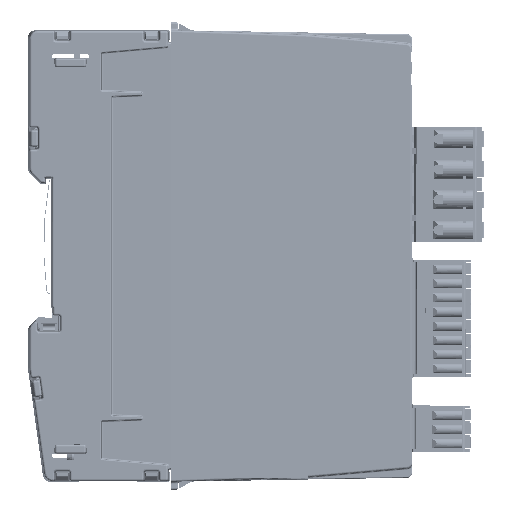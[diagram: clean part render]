
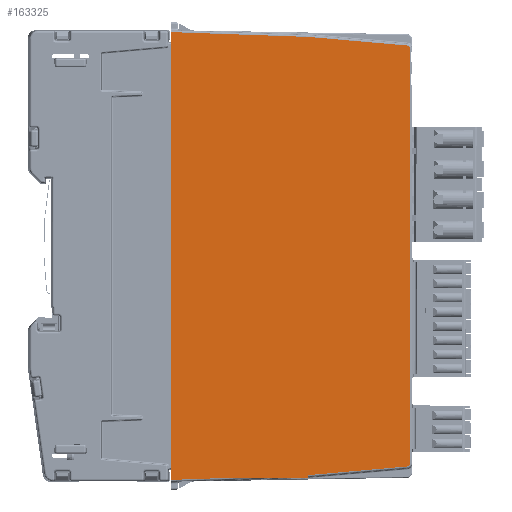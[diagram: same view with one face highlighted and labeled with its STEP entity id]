
A CAD part, left-side view. The second image highlights one B-rep face of the part: STEP entity #163325.
In plain terms, the highlighted planar face has unit normal (-1, -0.018, 0).
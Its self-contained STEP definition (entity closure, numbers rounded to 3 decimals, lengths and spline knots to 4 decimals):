
#15569=FACE_OUTER_BOUND('',#24622,.T.);
#24622=EDGE_LOOP('',(#137706,#137707,#137708,#137709,#137710,#137711,#137712,
#137713,#137714,#137715,#137716,#137717,#137718));
#40621=LINE('',#278768,#57121);
#40634=LINE('',#278840,#57134);
#40691=LINE('',#279068,#57191);
#41014=LINE('',#280099,#57514);
#41015=LINE('',#280101,#57515);
#41016=LINE('',#280105,#57516);
#41017=LINE('',#280109,#57517);
#41018=LINE('',#280111,#57518);
#41019=LINE('',#280113,#57519);
#41020=LINE('',#280115,#57520);
#41021=LINE('',#280116,#57521);
#57121=VECTOR('',#215088,0.3937);
#57134=VECTOR('',#215129,0.3937);
#57191=VECTOR('',#215324,39.3701);
#57514=VECTOR('',#216065,39.3701);
#57515=VECTOR('',#216066,39.3701);
#57516=VECTOR('',#216069,39.3701);
#57517=VECTOR('',#216072,39.3701);
#57518=VECTOR('',#216073,39.3701);
#57519=VECTOR('',#216074,39.3701);
#57520=VECTOR('',#216075,39.3701);
#57521=VECTOR('',#216076,39.3701);
#59869=ELLIPSE('',#175886,0.0315,0.0315);
#59870=ELLIPSE('',#175887,0.0315,0.0315);
#73015=VERTEX_POINT('',#278764);
#73017=VERTEX_POINT('',#278767);
#73039=VERTEX_POINT('',#278835);
#73097=VERTEX_POINT('',#279067);
#73400=VERTEX_POINT('',#280098);
#73401=VERTEX_POINT('',#280100);
#73402=VERTEX_POINT('',#280102);
#73403=VERTEX_POINT('',#280104);
#73404=VERTEX_POINT('',#280106);
#73405=VERTEX_POINT('',#280108);
#73406=VERTEX_POINT('',#280110);
#73407=VERTEX_POINT('',#280112);
#73408=VERTEX_POINT('',#280114);
#94485=EDGE_CURVE('',#73015,#73017,#40621,.T.);
#94512=EDGE_CURVE('',#73017,#73039,#40634,.T.);
#94605=EDGE_CURVE('',#73097,#73039,#40691,.T.);
#95036=EDGE_CURVE('',#73015,#73400,#41014,.T.);
#95037=EDGE_CURVE('',#73400,#73401,#41015,.T.);
#95038=EDGE_CURVE('',#73401,#73402,#59869,.T.);
#95039=EDGE_CURVE('',#73402,#73403,#41016,.T.);
#95040=EDGE_CURVE('',#73403,#73404,#59870,.T.);
#95041=EDGE_CURVE('',#73404,#73405,#41017,.T.);
#95042=EDGE_CURVE('',#73405,#73406,#41018,.T.);
#95043=EDGE_CURVE('',#73406,#73407,#41019,.T.);
#95044=EDGE_CURVE('',#73408,#73407,#41020,.T.);
#95045=EDGE_CURVE('',#73408,#73097,#41021,.T.);
#137706=ORIENTED_EDGE('',*,*,#95036,.T.);
#137707=ORIENTED_EDGE('',*,*,#95037,.T.);
#137708=ORIENTED_EDGE('',*,*,#95038,.T.);
#137709=ORIENTED_EDGE('',*,*,#95039,.T.);
#137710=ORIENTED_EDGE('',*,*,#95040,.T.);
#137711=ORIENTED_EDGE('',*,*,#95041,.T.);
#137712=ORIENTED_EDGE('',*,*,#95042,.T.);
#137713=ORIENTED_EDGE('',*,*,#95043,.T.);
#137714=ORIENTED_EDGE('',*,*,#95044,.F.);
#137715=ORIENTED_EDGE('',*,*,#95045,.T.);
#137716=ORIENTED_EDGE('',*,*,#94605,.T.);
#137717=ORIENTED_EDGE('',*,*,#94512,.F.);
#137718=ORIENTED_EDGE('',*,*,#94485,.F.);
#146936=PLANE('',#175885);
#163325=ADVANCED_FACE('',(#15569),#146936,.T.);
#175885=AXIS2_PLACEMENT_3D('',#280097,#216063,#216064);
#175886=AXIS2_PLACEMENT_3D('',#280103,#216067,#216068);
#175887=AXIS2_PLACEMENT_3D('',#280107,#216070,#216071);
#215088=DIRECTION('',(0.,0.,-1.));
#215129=DIRECTION('',(-0.017,1.,0.));
#215324=DIRECTION('',(0.017,-0.999,0.035));
#216063=DIRECTION('center_axis',(-1.,-0.017,
0.));
#216064=DIRECTION('ref_axis',(-0.017,1.,0.));
#216065=DIRECTION('',(0.017,-0.999,0.035));
#216066=DIRECTION('',(0.017,-0.996,0.087));
#216067=DIRECTION('center_axis',(-1.,-0.017,
0.));
#216068=DIRECTION('ref_axis',(0.017,-1.,0.));
#216069=DIRECTION('',(0.,0.,1.));
#216070=DIRECTION('center_axis',(-1.,-0.017,
0.));
#216071=DIRECTION('ref_axis',(0.017,-1.,0.));
#216072=DIRECTION('',(-0.017,0.996,0.087));
#216073=DIRECTION('',(-0.017,0.999,0.035));
#216074=DIRECTION('',(0.,0.,-1.));
#216075=DIRECTION('',(0.,0.,1.));
#216076=DIRECTION('',(0.,0.,-1.));
#278764=CARTESIAN_POINT('',(0.0005,-2.2096,-4.1958));
#278767=CARTESIAN_POINT('',(0.0005,-2.2096,-4.2206));
#278768=CARTESIAN_POINT('',(0.0005,-2.2096,-3.155));
#278835=CARTESIAN_POINT('',(-0.0119,-1.4997,-4.2206));
#278840=CARTESIAN_POINT('',(-0.0131,-1.4351,-4.2206));
#279067=CARTESIAN_POINT('',(-0.0227,-0.8827,-4.2421));
#279068=CARTESIAN_POINT('',(-0.0282,-0.5654,-4.2532));
#280097=CARTESIAN_POINT('Origin',(-0.0296,-0.489,
-2.0669));
#280098=CARTESIAN_POINT('',(0.0007,-2.2205,-4.1954));
#280099=CARTESIAN_POINT('',(-0.0282,-0.5654,-4.2532));
#280100=CARTESIAN_POINT('',(0.0174,-3.1772,-4.1117));
#280101=CARTESIAN_POINT('',(-0.0261,-0.6869,-4.3296));
#280102=CARTESIAN_POINT('',(0.0179,-3.2059,-4.0803));
#280103=CARTESIAN_POINT('Origin',(0.0173,-3.1744,
-4.0803));
#280104=CARTESIAN_POINT('',(0.0179,-3.2059,-0.0535));
#280105=CARTESIAN_POINT('',(0.0179,-3.2059,-0.0535));
#280106=CARTESIAN_POINT('',(0.0174,-3.1772,-0.0221));
#280107=CARTESIAN_POINT('Origin',(0.0173,-3.1744,
-0.0535));
#280108=CARTESIAN_POINT('',(0.0007,-2.2205,0.0616));
#280109=CARTESIAN_POINT('',(-0.0261,-0.6869,0.1957));
#280110=CARTESIAN_POINT('',(-0.0227,-0.8827,0.1083));
#280111=CARTESIAN_POINT('',(-0.0282,-0.5654,0.1194));
#280112=CARTESIAN_POINT('',(-0.0227,-0.8827,-0.0312));
#280113=CARTESIAN_POINT('',(-0.0227,-0.8827,0.128));
#280114=CARTESIAN_POINT('',(-0.0227,-0.8827,-4.1027));
#280115=CARTESIAN_POINT('',(-0.0227,-0.8827,-7.5932));
#280116=CARTESIAN_POINT('',(-0.0227,-0.8827,0.128));
